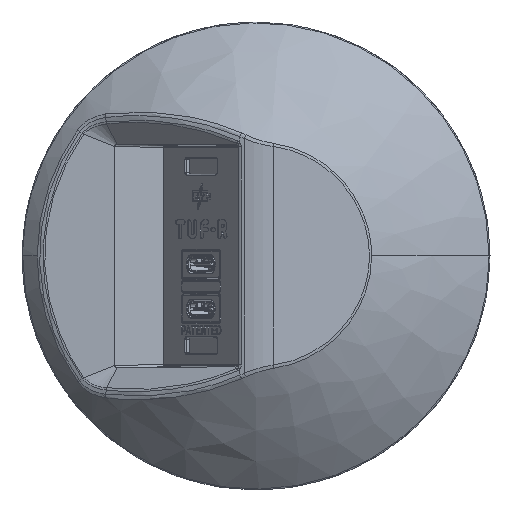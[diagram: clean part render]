
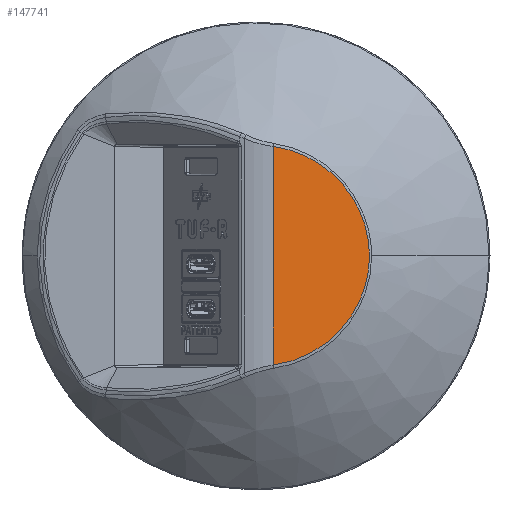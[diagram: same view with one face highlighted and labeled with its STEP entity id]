
A CAD part, top view. The second image highlights one B-rep face of the part: STEP entity #147741.
In plain terms, the highlighted planar face has unit normal (0.139, 0, 0.99).
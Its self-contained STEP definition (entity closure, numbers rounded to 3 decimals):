
#729 = CARTESIAN_POINT ( 'NONE',  ( 3.658, -23.345, 20.525 ) ) ;
#5245 = CARTESIAN_POINT ( 'NONE',  ( 12.916, 20.107, 19.224 ) ) ;
#7047 = CARTESIAN_POINT ( 'NONE',  ( 14.092, 19.334, 19.059 ) ) ;
#9764 = VECTOR ( 'NONE', #127137, 1000. ) ;
#10693 = DIRECTION ( 'NONE',  ( 0.99, 0., -0.139 ) ) ;
#18891 = CARTESIAN_POINT ( 'NONE',  ( 23.583, -5.65, 17.725 ) ) ;
#19796 = CARTESIAN_POINT ( 'NONE',  ( 19.225, 14.489, 18.337 ) ) ;
#20712 = CARTESIAN_POINT ( 'NONE',  ( 9.092, -21.964, 19.761 ) ) ;
#21605 = CARTESIAN_POINT ( 'NONE',  ( 14.088, -19.338, 19.059 ) ) ;
#22485 = CARTESIAN_POINT ( 'NONE',  ( 23.583, 5.647, 17.725 ) ) ;
#23560 = VERTEX_POINT ( 'NONE', #168629 ) ;
#24008 = ORIENTED_EDGE ( 'NONE', *, *, #168610, .T. ) ;
#32529 = CARTESIAN_POINT ( 'NONE',  ( 20.061, -13.36, 18.22 ) ) ;
#33430 = CARTESIAN_POINT ( 'NONE',  ( 12.91, -20.11, 19.225 ) ) ;
#34339 = CARTESIAN_POINT ( 'NONE',  ( 15.744, -18.032, 18.827 ) ) ;
#35248 = CARTESIAN_POINT ( 'NONE',  ( 8.435, -22.208, 19.854 ) ) ;
#36126 = CARTESIAN_POINT ( 'NONE',  ( 11.028, -21.113, 19.489 ) ) ;
#36191 = FACE_OUTER_BOUND ( 'NONE', #142924, .T. ) ;
#37609 = CARTESIAN_POINT ( 'NONE',  ( 3.658, 23.345, 20.525 ) ) ;
#47069 = CARTESIAN_POINT ( 'NONE',  ( 20.063, 13.356, 18.219 ) ) ;
#47971 = CARTESIAN_POINT ( 'NONE',  ( 23.98, 3.561, 17.669 ) ) ;
#48868 = CARTESIAN_POINT ( 'NONE',  ( 5.067, 23.16, 20.327 ) ) ;
#49776 = CARTESIAN_POINT ( 'NONE',  ( 17.805, -16.089, 18.537 ) ) ;
#60705 = CARTESIAN_POINT ( 'NONE',  ( 9.097, 21.963, 19.761 ) ) ;
#61620 = CARTESIAN_POINT ( 'NONE',  ( 24.08, -2.855, 17.655 ) ) ;
#62525 = CARTESIAN_POINT ( 'NONE',  ( 10.393, 21.407, 19.579 ) ) ;
#63407 = CARTESIAN_POINT ( 'NONE',  ( 5.066, -23.16, 20.327 ) ) ;
#64309 = CARTESIAN_POINT ( 'NONE',  ( 22.423, -8.996, 17.888 ) ) ;
#71630 = LINE ( 'NONE', #84397, #9764 ) ;
#75279 = CARTESIAN_POINT ( 'NONE',  ( 24.255, -0.713, 17.63 ) ) ;
#76195 = CARTESIAN_POINT ( 'NONE',  ( 16.277, -17.572, 18.752 ) ) ;
#77980 = CARTESIAN_POINT ( 'NONE',  ( 17.312, 16.596, 18.606 ) ) ;
#84397 = CARTESIAN_POINT ( 'NONE',  ( 3.658, 30., 20.525 ) ) ;
#88015 = CARTESIAN_POINT ( 'NONE',  ( 17.307, -16.602, 18.607 ) ) ;
#88918 = CARTESIAN_POINT ( 'NONE',  ( 23.192, -7.008, 17.78 ) ) ;
#89812 = CARTESIAN_POINT ( 'NONE',  ( 22.134, -9.654, 17.928 ) ) ;
#90715 = CARTESIAN_POINT ( 'NONE',  ( 22.135, 9.651, 17.928 ) ) ;
#91599 = CARTESIAN_POINT ( 'NONE',  ( 23.98, -3.56, 17.669 ) ) ;
#99777 = AXIS2_PLACEMENT_3D ( 'NONE', #122571, #118997, #10693 ) ;
#101653 = CARTESIAN_POINT ( 'NONE',  ( 6.437, 22.85, 20.134 ) ) ;
#102565 = CARTESIAN_POINT ( 'NONE',  ( 11.351, 20.942, 19.444 ) ) ;
#103478 = CARTESIAN_POINT ( 'NONE',  ( 21.165, 11.548, 18.065 ) ) ;
#104362 = CARTESIAN_POINT ( 'NONE',  ( 17.811, 16.082, 18.536 ) ) ;
#105277 = CARTESIAN_POINT ( 'NONE',  ( 21.163, -11.551, 18.065 ) ) ;
#108920 = PLANE ( 'NONE',  #99777 ) ;
#111874 = ORIENTED_EDGE ( 'NONE', *, *, #132959, .T. ) ;
#116225 = CARTESIAN_POINT ( 'NONE',  ( 22.424, 8.993, 17.888 ) ) ;
#117127 = CARTESIAN_POINT ( 'NONE',  ( 24.08, 2.857, 17.655 ) ) ;
#118035 = CARTESIAN_POINT ( 'NONE',  ( 10.071, 21.551, 19.624 ) ) ;
#118997 = DIRECTION ( 'NONE',  ( 0.139, 0., 0.99 ) ) ;
#119824 = CARTESIAN_POINT ( 'NONE',  ( 24.218, -1.428, 17.636 ) ) ;
#122571 = CARTESIAN_POINT ( 'NONE',  ( 3.658, 30., 20.525 ) ) ;
#127137 = DIRECTION ( 'NONE',  ( 0., -1., 0. ) ) ;
#130768 = CARTESIAN_POINT ( 'NONE',  ( 24.218, 1.433, 17.636 ) ) ;
#131679 = CARTESIAN_POINT ( 'NONE',  ( 19.221, -14.494, 18.338 ) ) ;
#132587 = CARTESIAN_POINT ( 'NONE',  ( 21.504, -10.931, 18.017 ) ) ;
#132959 = EDGE_CURVE ( 'NONE', #23560, #162362, #161171, .T. ) ;
#133470 = CARTESIAN_POINT ( 'NONE',  ( 11.033, 21.102, 19.489 ) ) ;
#142924 = EDGE_LOOP ( 'NONE', ( #24008, #111874 ) ) ;
#145338 = CARTESIAN_POINT ( 'NONE',  ( 6.436, -22.85, 20.135 ) ) ;
#146228 = CARTESIAN_POINT ( 'NONE',  ( 3.658, 23.345, 20.525 ) ) ;
#147109 = CARTESIAN_POINT ( 'NONE',  ( 23.193, 7.005, 17.78 ) ) ;
#147741 = ADVANCED_FACE ( 'NONE', ( #36191 ), #108920, .T. ) ;
#159884 = CARTESIAN_POINT ( 'NONE',  ( 24.255, 0.716, 17.63 ) ) ;
#160770 = CARTESIAN_POINT ( 'NONE',  ( 16.282, 17.568, 18.751 ) ) ;
#161171 = B_SPLINE_CURVE_WITH_KNOTS ( 'NONE', 3,
 ( #729, #63407, #145338, #35248, #20712, #172611, #36126, #33430, #21605, #34339, #76195, #88015, #49776, #131679, #32529, #105277, #132587, #89812, #64309, #88918, #18891, #91599, #61620, #119824, #75279, #159884, #130768, #117127, #47971, #22485, #147109, #116225, #90715, #171709, #103478, #47069, #19796, #104362, #77980, #160770, #174426, #7047, #5245, #102565, #133470, #62525, #118035, #60705, #175310, #101653, #48868, #146228 ),
 .UNSPECIFIED., .F., .F.,
 ( 4, 2, 2, 2, 2, 2, 2, 2, 2, 2, 2, 2, 2, 2, 2, 2, 2, 2, 2, 2, 2, 2, 2, 2, 2, 4 ),
 ( 0., 0.004, 0.006, 0.008, 0.013, 0.015, 0.017, 0.021, 0.023, 0.025, 0.03, 0.032, 0.034, 0.036, 0.038, 0.042, 0.044, 0.047, 0.051, 0.053, 0.055, 0.059, 0.06, 0.061, 0.064, 0.068 ),
 .UNSPECIFIED. ) ;
#162362 = VERTEX_POINT ( 'NONE', #37609 ) ;
#168610 = EDGE_CURVE ( 'NONE', #162362, #23560, #71630, .T. ) ;
#168629 = CARTESIAN_POINT ( 'NONE',  ( 3.658, -23.345, 20.525 ) ) ;
#171709 = CARTESIAN_POINT ( 'NONE',  ( 21.506, 10.928, 18.017 ) ) ;
#172611 = CARTESIAN_POINT ( 'NONE',  ( 10.388, -21.418, 19.579 ) ) ;
#174426 = CARTESIAN_POINT ( 'NONE',  ( 15.748, 18.028, 18.826 ) ) ;
#175310 = CARTESIAN_POINT ( 'NONE',  ( 8.439, 22.206, 19.853 ) ) ;
